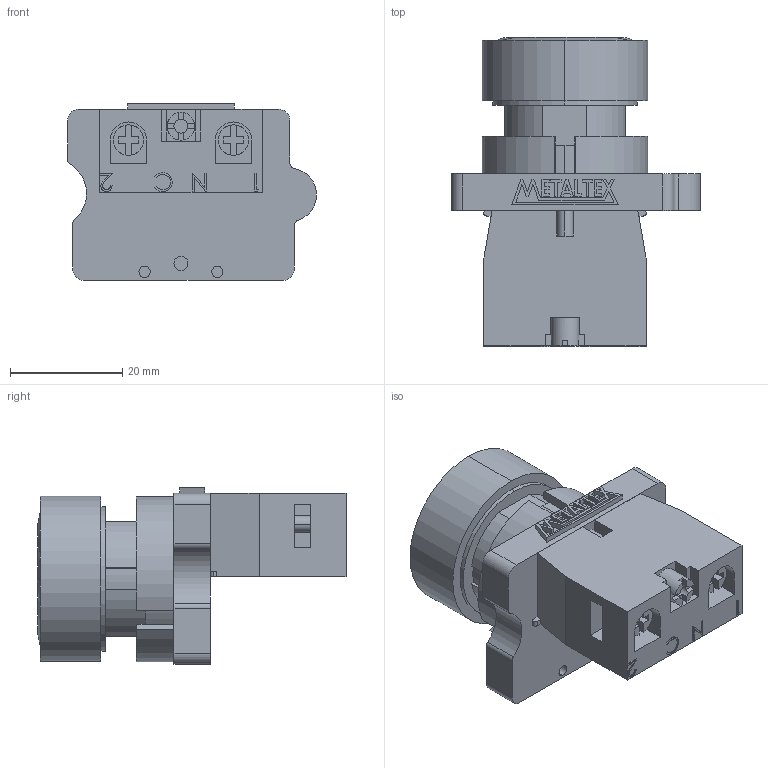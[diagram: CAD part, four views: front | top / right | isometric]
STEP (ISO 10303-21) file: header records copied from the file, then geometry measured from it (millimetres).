
FILE_DESCRIPTION (( 'STEP AP203' ), '1' );
FILE_NAME ('P20AFR-R-1B.STEP', '2018-01-17T13:47:40', ( '' ), ( '' ), 'SwSTEP 2.0', 'SolidWorks 2012', '' );
FILE_SCHEMA (( 'CONFIG_CONTROL_DESIGN' ));
Length unit declared in the file: millimetre
Products named in the file (4): P20AFR; M20-1B; METALTEX 18,98; P20AFR-R-1B
Assembly tree (3 placements, depth 2):
  P20AFR-R-1B
    P20AFR
    M20-1B
    METALTEX 18,98
Bounding box: 44.44 x 55.17 x 31.5 mm (x, y, z)
Volume: 31321.8 mm3; surface area: 11576.1 mm2
Topology: 9 solids, 9 shells, 344 faces, 897 edges, 593 vertices
Faces by surface type: plane 251, cylinder 72, bspline 17, torus 4
Entity records: 11861 total; most frequent: CARTESIAN_POINT 2919, ORIENTED_EDGE 1790, DIRECTION 1713, EDGE_CURVE 895, LINE 679, VECTOR 679, VERTEX_POINT 593, AXIS2_PLACEMENT_3D 517
